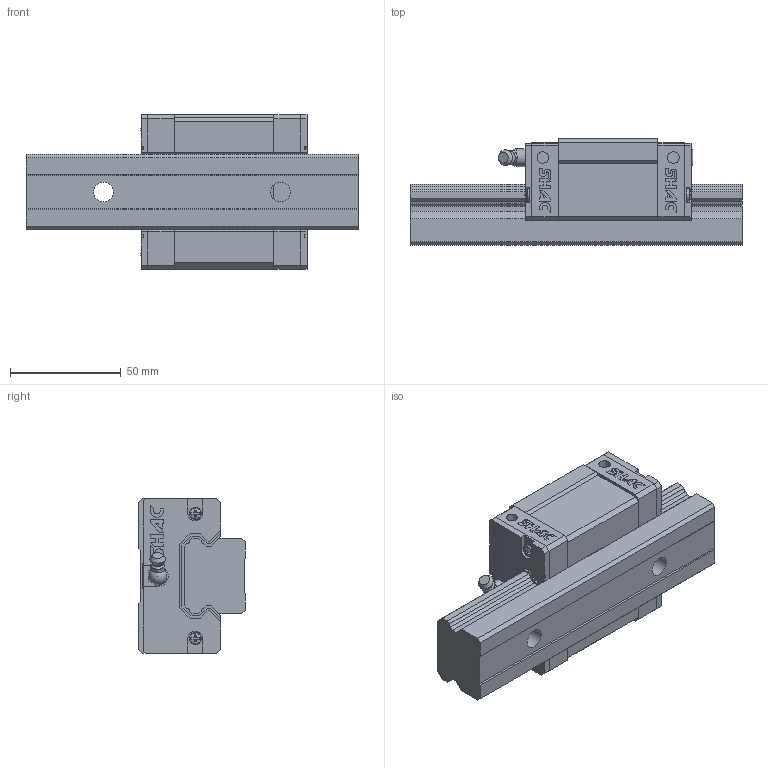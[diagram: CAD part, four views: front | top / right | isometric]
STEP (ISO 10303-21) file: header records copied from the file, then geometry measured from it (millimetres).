
FILE_DESCRIPTION( ( 'STEP AP214' ), '1' );
FILE_NAME( 'F:/品牌/SHAC 台湾鼎翰传动科技有限公司/3D滑块/GEH35SA1R150Z0C-35_35_1__.stp', '2025-04-21T22:51:11', ( 'License CC BY-ND 4.0' ), ( 'CADENAS' ), ' ', 'PARTsolutions', ' ' );
FILE_SCHEMA( ( 'AUTOMOTIVE_DESIGN { 1 0 10303 214 1 1 1 1 }' ) );
Length unit declared in the file: millimetre
Products named in the file (8): GEH35SA1R150Z0C-35/35(1_); _GE35SR150-35/35(2)_RAIL; _GEH35SA_slider; _GES35_C; _GES35_P; _GH35_SCREW; _GH35_BOLT; _GH35-_G
Assembly tree (12 placements, depth 2):
  GEH35SA1R150Z0C-35/35(1_)
    _GE35SR150-35/35(2)_RAIL
    _GEH35SA_slider
    _GES35_C  x2
    _GES35_P  x2
    _GH35_SCREW  x4
    _GH35_BOLT
    _GH35-_G
Bounding box: 150 x 48 x 70 mm (x, y, z)
Volume: 272659.7 mm3; surface area: 62663.7 mm2
Topology: 12 solids, 12 shells, 744 faces, 2007 edges, 1329 vertices
Faces by surface type: plane 615, cylinder 99, cone 18, torus 6, sphere 5, bspline 1
Full cylindrical faces by diameter (mm): 3.3 x4, 4.5 x1, 5.2 x4, 5.43 x4, 6 x2, 6.5 x2, 6.647 x2, 7.3 x2, 8 x1, 8.2 x1, 9 x2, 14 x2
Entity records: 17309 total; most frequent: CARTESIAN_POINT 2572, ORIENTED_EDGE 2298, DIRECTION 2184, EDGE_CURVE 1149, LINE 964, VECTOR 964, VERTEX_POINT 778, AXIS2_PLACEMENT_3D 610
